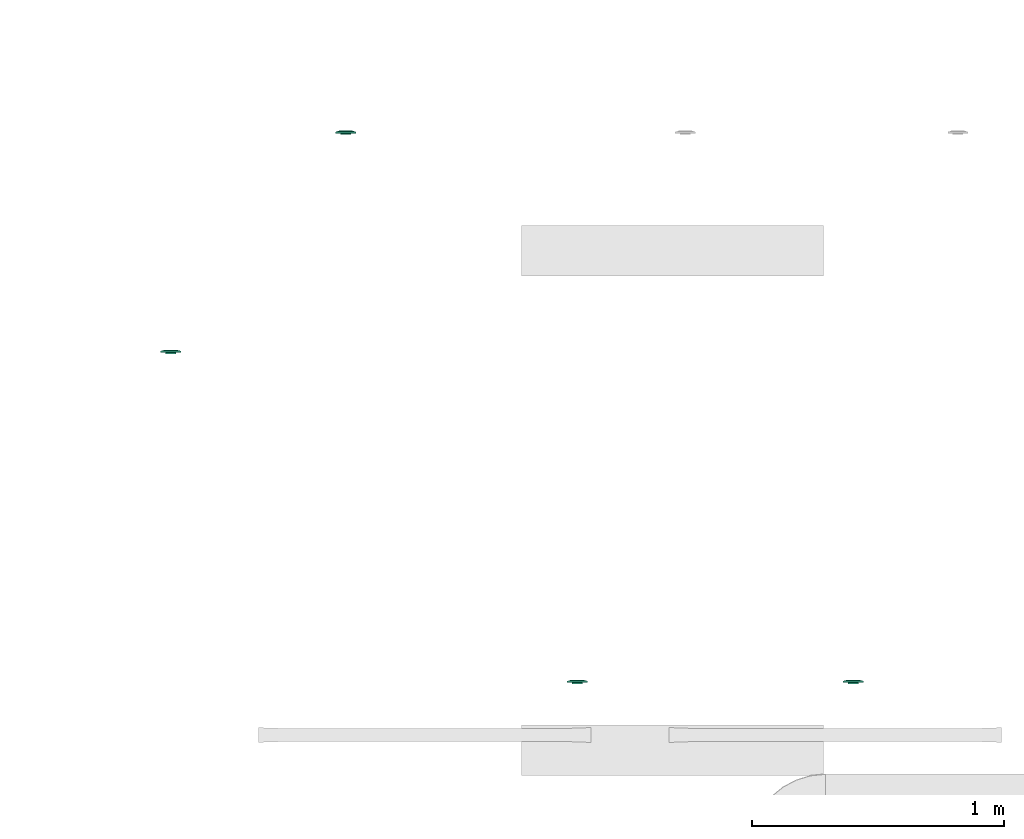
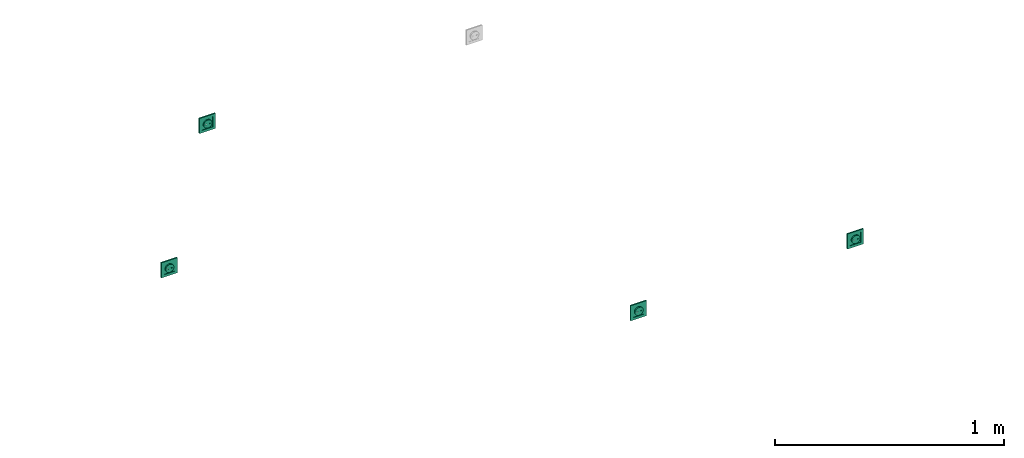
# One storey, part 51 of 153: 4 flow terminals.
"""IFC2X3 building model written with IfcOpenShell, lengths in metres."""

from ifc_helpers import new_model, entity, si_unit, converted_unit, derived_unit, direction, frame, origin, place, context, subcontext, project, spatial, face_set, surface_model, source, transform, mapped, type_object, type_shapes, element, save


model = new_model("IFC2X3")

# Units and contexts
model_context = context("Model", 3, precision=1e-05, world=origin(), true_north=direction((6.12303176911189e-17, 1.0)))
body_context = subcontext(model_context, "Body", "Model", "MODEL_VIEW")
ifc_project = project(units=[si_unit("LENGTHUNIT", "METRE"), si_unit("AREAUNIT", "SQUARE_METRE"), si_unit("VOLUMEUNIT", "CUBIC_METRE"), converted_unit("PLANEANGLEUNIT", "DEGREE", entity("IfcRatioMeasure", 0.0174532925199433), si_unit("PLANEANGLEUNIT", "RADIAN"), dimensions=[0, 0, 0, 0, 0, 0, 0]), si_unit("MASSUNIT", "GRAM", prefix="KILO"), derived_unit("MASSDENSITYUNIT", [(si_unit("MASSUNIT", "GRAM", prefix="KILO"), 1), (si_unit("LENGTHUNIT", "METRE"), -3)]), si_unit("TIMEUNIT", "SECOND"), si_unit("FREQUENCYUNIT", "HERTZ"), si_unit("THERMODYNAMICTEMPERATUREUNIT", "DEGREE_CELSIUS"), derived_unit("THERMALTRANSMITTANCEUNIT", [(si_unit("MASSUNIT", "GRAM", prefix="KILO"), 1), (si_unit("THERMODYNAMICTEMPERATUREUNIT", "KELVIN"), -1), (si_unit("TIMEUNIT", "SECOND"), -3)]), derived_unit("VOLUMETRICFLOWRATEUNIT", [(si_unit("LENGTHUNIT", "METRE"), 3), (si_unit("TIMEUNIT", "SECOND"), -1)]), si_unit("ELECTRICCURRENTUNIT", "AMPERE"), si_unit("ELECTRICVOLTAGEUNIT", "VOLT"), si_unit("POWERUNIT", "WATT"), si_unit("FORCEUNIT", "NEWTON"), si_unit("ILLUMINANCEUNIT", "LUX"), si_unit("LUMINOUSFLUXUNIT", "LUMEN"), si_unit("LUMINOUSINTENSITYUNIT", "CANDELA"), derived_unit("USERDEFINED", [(si_unit("MASSUNIT", "GRAM", prefix="KILO"), -1), (si_unit("LENGTHUNIT", "METRE"), -2), (si_unit("TIMEUNIT", "SECOND"), 3), (si_unit("LUMINOUSFLUXUNIT", "LUMEN"), 1)]), derived_unit("LINEARVELOCITYUNIT", [(si_unit("LENGTHUNIT", "METRE"), 1), (si_unit("TIMEUNIT", "SECOND"), -1)]), si_unit("PRESSUREUNIT", "PASCAL"), derived_unit("USERDEFINED", [(si_unit("LENGTHUNIT", "METRE"), -2), (si_unit("MASSUNIT", "GRAM", prefix="KILO"), 1), (si_unit("TIMEUNIT", "SECOND"), -2)])], contexts=[model_context])

# Site, building, storey
site_placement = place(None, origin())
site = spatial("IfcSite", under=ifc_project, at=site_placement, Name="Default", CompositionType="ELEMENT")
building_placement = place(site_placement, origin())
building = spatial("IfcBuilding", under=site, at=building_placement, CompositionType="ELEMENT")
storey_placement = place(building_placement, frame((0.0, 0.0, -4.62)))
storey = spatial("IfcBuildingStorey", under=building, at=storey_placement, Name="S02", CompositionType="ELEMENT", Elevation=-4.62)

# Flow terminals
light_fixture_type = type_object("IfcLightFixtureType", Name="Attente", PredefinedType="NOTDEFINED")
shared_shape = source(origin(), body_context, "Body", "SurfaceModel", [
    surface_model("IfcFaceBasedSurfaceModel", [(0.00225000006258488, 0.00949633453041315, 0.0127499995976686), (0.0, 0.00949633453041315, 0.0104999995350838), (0.0, 0.0101656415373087, 0.0115376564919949), (0.0, 0.0101656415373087, 0.0139623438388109), (0.0, 0.00984531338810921, 0.0144589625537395), (0.0, 0.0102778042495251, 0.0121178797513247), (0.0, 0.0102778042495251, 0.0133821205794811), (0.0, 0.010399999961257, 0.0127499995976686), (0.0, 0.00949633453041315, 0.0149999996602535), (-0.00225000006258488, 0.00949633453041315, 0.0127499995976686), (0.0, 0.00984531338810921, 0.0110410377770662), (0.0, 0.00949633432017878, 0.0127499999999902), (-0.0022499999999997, 0.0094963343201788, 0.0127499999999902), (-0.00217333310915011, 0.00949633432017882, 0.0121676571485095), (-0.0019485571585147, 0.00949633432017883, 0.0116249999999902), (-0.00159099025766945, 0.00949633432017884, 0.0111590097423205), (-0.00112499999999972, 0.00949633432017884, 0.0108014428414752), (-0.000582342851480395, 0.00949633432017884, 0.0105766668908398), (0.0, 0.00949633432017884, 0.0104999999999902), (0.000582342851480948, 0.00949633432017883, 0.0105766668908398), (0.00112500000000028, 0.00949633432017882, 0.0108014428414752), (0.00159099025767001, 0.00949633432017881, 0.0111590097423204), (0.00194855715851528, 0.00949633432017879, 0.0116249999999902), (0.0021733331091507, 0.00949633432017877, 0.0121676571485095), (0.0022500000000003, 0.00949633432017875, 0.0127499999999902), (0.00217333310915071, 0.00949633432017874, 0.0133323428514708), (0.0019485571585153, 0.00949633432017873, 0.0138749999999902), (0.00159099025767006, 0.00949633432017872, 0.0143409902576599), (0.00112500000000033, 0.00949633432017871, 0.0146985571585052), (0.000582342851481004, 0.00949633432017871, 0.0149233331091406), (0.0, 0.00949633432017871, 0.0149999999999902), (-0.000582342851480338, 0.00949633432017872, 0.0149233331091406), (-0.00112499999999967, 0.00949633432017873, 0.0146985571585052), (-0.00159099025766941, 0.00949633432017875, 0.0143409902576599), (-0.00194855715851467, 0.00949633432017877, 0.0138749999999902), (-0.00217333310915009, 0.00949633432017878, 0.0133323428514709), (-0.00224999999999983, -0.00360000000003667, 0.0127499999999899), (-0.00217333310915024, -0.00360000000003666, 0.0121676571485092), (-0.00194855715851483, -0.00360000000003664, 0.0116249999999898), (-0.00159099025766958, -0.00360000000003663, 0.0111590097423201), (-0.00112499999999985, -0.00360000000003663, 0.0108014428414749), (-0.000582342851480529, -0.00360000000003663, 0.0105766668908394), (0.0, -0.00360000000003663, 0.0104999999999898), (0.000582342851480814, -0.00360000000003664, 0.0105766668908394), (0.00112500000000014, -0.00360000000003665, 0.0108014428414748), (0.00159099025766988, -0.00360000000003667, 0.0111590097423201), (0.00194855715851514, -0.00360000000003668, 0.0116249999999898), (0.00217333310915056, -0.0036000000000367, 0.0121676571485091), (0.00225000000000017, -0.00360000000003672, 0.0127499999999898), (0.00217333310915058, -0.00360000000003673, 0.0133323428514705), (0.00194855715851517, -0.00360000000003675, 0.0138749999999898), (0.00159099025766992, -0.00360000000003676, 0.0143409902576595), (0.00112500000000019, -0.00360000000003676, 0.0146985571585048), (0.00058234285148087, -0.00360000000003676, 0.0149233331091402), (0.0, -0.00360000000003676, 0.0149999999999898), (-0.000582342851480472, -0.00360000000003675, 0.0149233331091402), (-0.0011249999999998, -0.00360000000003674, 0.0146985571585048), (-0.00159099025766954, -0.00360000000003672, 0.0143409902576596), (-0.0019485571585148, -0.00360000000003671, 0.0138749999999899), (-0.00217333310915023, -0.00360000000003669, 0.0133323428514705), (-0.0270000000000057, 0.0113999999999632, 0.0269999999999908), (0.0269999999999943, 0.0113999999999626, 0.0269999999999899), (0.0269999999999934, 0.0113999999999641, -0.0270000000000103), (-0.0270000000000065, 0.0113999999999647, -0.0270000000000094), (0.0199999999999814, 0.0113999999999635, 0.0), (0.0193185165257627, 0.0113999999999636, -0.00517638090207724), (0.0173205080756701, 0.0113999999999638, -0.0100000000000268), (0.0141421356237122, 0.0113999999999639, -0.0141421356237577), (0.00999999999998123, 0.011399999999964, -0.0173205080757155), (0.00517638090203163, 0.0113999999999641, -0.019318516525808), (0.0, 0.0113999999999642, -0.0200000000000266), (-0.00517638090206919, 0.0113999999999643, -0.0193185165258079), (-0.0100000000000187, 0.0113999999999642, -0.0173205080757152), (-0.0141421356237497, 0.0113999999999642, -0.0141421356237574), (-0.0173205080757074, 0.0113999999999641, -0.0100000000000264), (-0.0193185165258, 0.011399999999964, -0.0051763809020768), (-0.0200000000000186, 0.0113999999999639, 0.0), (-0.0193185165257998, 0.0113999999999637, 0.00517638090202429), (-0.0173205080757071, 0.0113999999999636, 0.00999999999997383), (-0.0141421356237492, 0.0113999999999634, 0.0141421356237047), (-0.0100000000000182, 0.0113999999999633, 0.0173205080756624), (-0.00517638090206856, 0.0113999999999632, 0.0193185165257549), (0.0, 0.0113999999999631, 0.0199999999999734), (0.00517638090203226, 0.0113999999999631, 0.0193185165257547), (0.0099999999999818, 0.0113999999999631, 0.017320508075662), (0.0141421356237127, 0.0113999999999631, 0.0141421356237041), (0.0173205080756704, 0.0113999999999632, 0.00999999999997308), (0.0193185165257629, 0.0113999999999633, 0.00517638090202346), (-0.0270000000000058, 0.00199999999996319, 0.0269999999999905), (-0.0270000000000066, 0.00199999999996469, -0.0270000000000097), (0.0269999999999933, 0.00199999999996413, -0.0270000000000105), (0.0269999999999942, 0.00199999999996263, 0.0269999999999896), (-0.0210000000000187, 0.00199999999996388, 0.0), (-0.0202844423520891, 0.00199999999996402, -0.00543519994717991), (-0.0181865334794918, 0.00199999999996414, -0.0105000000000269), (-0.0148492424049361, 0.00199999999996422, -0.0148492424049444), (-0.0105000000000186, 0.00199999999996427, -0.0181865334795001), (-0.00543519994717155, 0.00199999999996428, -0.0202844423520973), (0.0, 0.00199999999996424, -0.0210000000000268), (0.00543519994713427, 0.00199999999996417, -0.0202844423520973), (0.0104999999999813, 0.00199999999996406, -0.0181865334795), (0.0148492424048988, 0.00199999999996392, -0.0148492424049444), (0.0181865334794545, 0.00199999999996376, -0.0105000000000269), (0.0202844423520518, 0.0019999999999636, -0.00543519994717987), (0.0209999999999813, 0.00199999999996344, 0.0), (0.0202844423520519, 0.0019999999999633, 0.0054351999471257), (0.0181865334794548, 0.00199999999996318, 0.0104999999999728), (0.0148492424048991, 0.00199999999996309, 0.0148492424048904), (0.0104999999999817, 0.00199999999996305, 0.0181865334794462), (0.00543519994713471, 0.00199999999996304, 0.0202844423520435), (0.0, 0.00199999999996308, 0.0209999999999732), (-0.00543519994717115, 0.00199999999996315, 0.0202844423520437), (-0.0105000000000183, 0.00199999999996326, 0.0181865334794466), (-0.0148492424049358, 0.0019999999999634, 0.014849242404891), (-0.0181865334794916, 0.00199999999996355, 0.0104999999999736), (-0.020284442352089, 0.00199999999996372, 0.00543519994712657), (-0.0200000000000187, -0.00360000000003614, 0.0), (-0.0193185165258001, -0.003600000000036, -0.00517638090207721), (-0.0173205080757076, -0.00360000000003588, -0.0100000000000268), (-0.0141421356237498, -0.0036000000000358, -0.0141421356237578), (-0.0100000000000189, -0.00360000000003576, -0.0173205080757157), (-0.00517638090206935, -0.00360000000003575, -0.0193185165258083), (0.0, -0.00360000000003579, -0.020000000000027), (0.00517638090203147, -0.00360000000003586, -0.0193185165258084), (0.00999999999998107, -0.00360000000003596, -0.0173205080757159), (0.0141421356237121, -0.00360000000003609, -0.0141421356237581), (0.0173205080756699, -0.00360000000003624, -0.0100000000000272), (0.0193185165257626, -0.0036000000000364, -0.00517638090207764), (0.0199999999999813, -0.00360000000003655, 0.0), (0.0193185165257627, -0.00360000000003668, 0.00517638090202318), (0.0173205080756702, -0.0036000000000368, 0.00999999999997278), (0.0141421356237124, -0.00360000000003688, 0.0141421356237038), (0.00999999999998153, -0.00360000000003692, 0.0173205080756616), (0.00517638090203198, -0.00360000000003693, 0.0193185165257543), (0.0, -0.0036000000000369, 0.019999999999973), (-0.00517638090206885, -0.00360000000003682, 0.0193185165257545), (-0.0100000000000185, -0.00360000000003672, 0.0173205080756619), (-0.0141421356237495, -0.00360000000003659, 0.0141421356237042), (-0.0173205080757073, -0.00360000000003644, 0.00999999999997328), (-0.0193185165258, -0.00360000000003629, 0.00517638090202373), (0.0123499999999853, -0.00360000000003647, 0.0), (0.0122562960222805, -0.00360000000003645, -0.000711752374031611), (0.0119815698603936, -0.00360000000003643, -0.00137499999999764), (0.0115445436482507, -0.00360000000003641, -0.00194454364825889), (0.0109749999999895, -0.00360000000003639, -0.00238156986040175), (0.0103117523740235, -0.00360000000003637, -0.00265629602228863), (0.00959999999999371, -0.00360000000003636, -0.00274999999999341), (0.00888824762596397, -0.00360000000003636, -0.00265629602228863), (0.00822499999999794, -0.00360000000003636, -0.00238156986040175), (0.00765545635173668, -0.00360000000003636, -0.00194454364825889), (0.00721843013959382, -0.00360000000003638, -0.00137499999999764), (0.00694370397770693, -0.00360000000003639, -0.000711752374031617), (0.00685000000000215, -0.00360000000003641, 0.0), (0.00694370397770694, -0.00360000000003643, 0.000711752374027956), (0.00721843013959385, -0.00360000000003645, 0.00137499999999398), (0.00765545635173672, -0.00360000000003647, 0.00194454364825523), (0.00822499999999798, -0.00360000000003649, 0.00238156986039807), (0.00888824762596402, -0.00360000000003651, 0.00265629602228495), (0.00959999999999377, -0.00360000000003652, 0.0027499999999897), (0.0103117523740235, -0.00360000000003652, 0.00265629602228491), (0.0109749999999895, -0.00360000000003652, 0.00238156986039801), (0.0115445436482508, -0.00360000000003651, 0.00194454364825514), (0.0119815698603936, -0.0036000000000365, 0.00137499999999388), (0.0122562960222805, -0.00360000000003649, 0.000711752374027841), (-0.00685000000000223, -0.00360000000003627, 0.0), (-0.00694370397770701, -0.00360000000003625, -0.000711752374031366), (-0.0072184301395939, -0.00360000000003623, -0.00137499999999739), (-0.00765545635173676, -0.00360000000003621, -0.00194454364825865), (-0.00822499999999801, -0.00360000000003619, -0.0023815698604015), (-0.00888824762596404, -0.00360000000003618, -0.00265629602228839), (-0.00959999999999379, -0.00360000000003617, -0.00274999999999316), (-0.0103117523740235, -0.00360000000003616, -0.00265629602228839), (-0.0109749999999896, -0.00360000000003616, -0.00238156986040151), (-0.0115445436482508, -0.00360000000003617, -0.00194454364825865), (-0.0119815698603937, -0.00360000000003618, -0.0013749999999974), (-0.0122562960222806, -0.0036000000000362, -0.000711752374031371), (-0.0123499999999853, -0.00360000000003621, 0.0), (-0.0122562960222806, -0.00360000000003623, 0.000711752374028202), (-0.0119815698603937, -0.00360000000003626, 0.00137499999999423), (-0.0115445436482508, -0.00360000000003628, 0.00194454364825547), (-0.0109749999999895, -0.00360000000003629, 0.00238156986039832), (-0.0103117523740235, -0.00360000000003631, 0.00265629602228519), (-0.00959999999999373, -0.00360000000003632, 0.00274999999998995), (-0.00888824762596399, -0.00360000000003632, 0.00265629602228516), (-0.00822499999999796, -0.00360000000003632, 0.00238156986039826), (-0.00765545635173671, -0.00360000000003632, 0.00194454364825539), (-0.00721843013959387, -0.0036000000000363, 0.00137499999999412), (-0.00694370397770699, -0.00360000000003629, 0.000711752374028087), (-0.0210000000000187, -0.00460000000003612, 0.0), (-0.0202844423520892, -0.00460000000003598, -0.00543519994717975), (-0.018186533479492, -0.00460000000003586, -0.0105000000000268), (-0.0148492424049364, -0.00460000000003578, -0.0148492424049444), (-0.0105000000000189, -0.00460000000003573, -0.0181865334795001), (-0.00543519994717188, -0.00460000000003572, -0.0202844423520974), (0.0, -0.00460000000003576, -0.021000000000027), (0.00543519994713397, -0.00460000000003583, -0.0202844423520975), (0.0104999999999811, -0.00460000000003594, -0.0181865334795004), (0.0148492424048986, -0.00460000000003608, -0.0148492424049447), (0.0181865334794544, -0.00460000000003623, -0.0105000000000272), (0.0202844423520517, -0.0046000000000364, -0.0054351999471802), (0.0209999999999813, -0.00460000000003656, 0.0), (0.0202844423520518, -0.0046000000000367, 0.00543519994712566), (0.0181865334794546, -0.00460000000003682, 0.0104999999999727), (0.014849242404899, -0.00460000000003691, 0.0148492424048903), (0.0104999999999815, -0.00460000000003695, 0.0181865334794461), (0.0054351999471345, -0.00460000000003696, 0.0202844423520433), (0.0, -0.00460000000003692, 0.020999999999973), (-0.00543519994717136, -0.00460000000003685, 0.0202844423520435), (-0.0105000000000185, -0.00460000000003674, 0.0181865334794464), (-0.014849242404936, -0.0046000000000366, 0.0148492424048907), (-0.0181865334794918, -0.00460000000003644, 0.0104999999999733), (-0.0202844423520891, -0.00460000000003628, 0.00543519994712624), (0.00685000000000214, -0.00460000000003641, 0.0), (0.00694370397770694, -0.00460000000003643, 0.000711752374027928), (0.00721843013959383, -0.00460000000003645, 0.00137499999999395), (0.0076554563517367, -0.00460000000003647, 0.0019445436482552), (0.00822499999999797, -0.00460000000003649, 0.00238156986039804), (0.00888824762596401, -0.0046000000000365, 0.00265629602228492), (0.00959999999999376, -0.00460000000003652, 0.00274999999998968), (0.0103117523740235, -0.00460000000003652, 0.00265629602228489), (0.0109749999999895, -0.00460000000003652, 0.00238156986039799), (0.0115445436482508, -0.00460000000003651, 0.00194454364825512), (0.0119815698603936, -0.0046000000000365, 0.00137499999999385), (0.0122562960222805, -0.00460000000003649, 0.000711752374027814), (0.0123499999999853, -0.00460000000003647, 0.0), (0.0122562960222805, -0.00460000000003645, -0.00071175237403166), (0.0119815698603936, -0.00460000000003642, -0.00137499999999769), (0.0115445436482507, -0.0046000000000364, -0.00194454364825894), (0.0109749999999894, -0.00460000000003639, -0.00238156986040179), (0.0103117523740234, -0.00460000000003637, -0.00265629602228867), (0.00959999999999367, -0.00460000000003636, -0.00274999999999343), (0.00888824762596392, -0.00460000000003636, -0.00265629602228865), (0.00822499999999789, -0.00460000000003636, -0.00238156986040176), (0.00765545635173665, -0.00460000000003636, -0.00194454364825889), (0.00721843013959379, -0.00460000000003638, -0.00137499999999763), (0.00694370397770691, -0.00460000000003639, -0.0007117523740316), (-0.0123499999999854, -0.00460000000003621, 0.0), (-0.0122562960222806, -0.00460000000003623, 0.000711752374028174), (-0.0119815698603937, -0.00460000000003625, 0.0013749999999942), (-0.0115445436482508, -0.00460000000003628, 0.00194454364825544), (-0.0109749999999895, -0.00460000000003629, 0.00238156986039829), (-0.0103117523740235, -0.00460000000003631, 0.00265629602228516), (-0.00959999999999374, -0.00460000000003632, 0.00274999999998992), (-0.008888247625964, -0.00460000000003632, 0.00265629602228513), (-0.00822499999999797, -0.00460000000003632, 0.00238156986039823), (-0.00765545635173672, -0.00460000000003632, 0.00194454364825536), (-0.00721843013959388, -0.0046000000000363, 0.0013749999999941), (-0.006943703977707, -0.00460000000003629, 0.000711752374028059), (-0.00685000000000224, -0.00460000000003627, 0.0), (-0.00694370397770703, -0.00460000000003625, -0.000711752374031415), (-0.00721843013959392, -0.00460000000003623, -0.00137499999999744), (-0.00765545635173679, -0.00460000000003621, -0.00194454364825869), (-0.00822499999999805, -0.00460000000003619, -0.00238156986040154), (-0.00888824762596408, -0.00460000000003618, -0.00265629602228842), (-0.00959999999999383, -0.00460000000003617, -0.00274999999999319), (-0.0103117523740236, -0.00460000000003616, -0.00265629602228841), (-0.0109749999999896, -0.00460000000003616, -0.00238156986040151), (-0.0115445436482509, -0.00460000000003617, -0.00194454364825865), (-0.0119815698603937, -0.00460000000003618, -0.00137499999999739), (-0.0122562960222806, -0.00460000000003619, -0.000711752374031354), (-0.0403499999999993, 0.00659999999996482, 0.0403499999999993), (-0.0403500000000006, 0.00659999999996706, -0.0403500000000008), (0.0403499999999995, 0.00659999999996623, -0.0403500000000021), (0.0403500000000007, 0.00659999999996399, 0.040349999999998), (-0.0269999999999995, 0.00659999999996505, 0.026999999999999), (0.0270000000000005, 0.0065999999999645, 0.0269999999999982), (0.0269999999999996, 0.006599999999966, -0.0270000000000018), (-0.0270000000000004, 0.00659999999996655, -0.027000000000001), (-0.0269999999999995, 0.0103999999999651, 0.0269999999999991), (0.0270000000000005, 0.0103999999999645, 0.0269999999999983), (0.0269999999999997, 0.010399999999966, -0.0270000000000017), (-0.0270000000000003, 0.0103999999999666, -0.0270000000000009), (-0.0403499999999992, 0.00659999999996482, 0.0403499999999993), (-0.0403500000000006, 0.00659999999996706, -0.0403500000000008), (0.0403499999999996, 0.00659999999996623, -0.0403500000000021), (0.0403500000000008, 0.00659999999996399, 0.040349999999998), (0.0270000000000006, 0.0065999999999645, 0.0269999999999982), (0.0269999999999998, 0.006599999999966, -0.0270000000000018), (-0.0270000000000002, 0.00659999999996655, -0.027000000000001), (-0.0269999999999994, 0.00659999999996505, 0.026999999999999), (-0.0403499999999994, 0.0, 0.0403499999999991), (-0.0403500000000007, 0.0, -0.040350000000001), (0.0403499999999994, 0.0, -0.0403500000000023), (0.0403500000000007, 0.0, 0.0403499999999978), (-0.0269999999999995, 0.0, 0.0269999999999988), (0.0270000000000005, 0.0, 0.026999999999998), (0.0269999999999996, 0.0, -0.027000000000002), (-0.0270000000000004, 0.0, -0.0270000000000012)], [face_set([[[0, 1, 2]], [[3, 4, 2, 5]], [[6, 3, 5, 7]], [[2, 4, 0]], [[4, 8, 0]], [[3, 9, 8]], [[1, 9, 10]], [[2, 3, 6, 7]], [[3, 10, 9]], [[2, 10, 3]], [[11, 1, 0, 8]], [[11, 8, 9, 1]]]), face_set([[[12, 13, 14, 15, 16, 17, 18, 19, 20, 21, 22, 23, 24, 25, 26, 27, 28, 29, 30, 31, 32, 33, 34, 35]], [[36, 37, 38, 39, 40, 41, 42, 43, 44, 45, 46, 47, 48, 49, 50, 51, 52, 53, 54, 55, 56, 57, 58, 59]], [[48, 47, 23, 24]], [[47, 46, 22, 23]], [[45, 44, 20, 21]], [[46, 45, 21, 22]], [[44, 43, 19, 20]], [[18, 19, 43, 42]], [[42, 41, 17, 18]], [[41, 40, 16, 17]], [[39, 38, 14, 15]], [[40, 39, 15, 16]], [[38, 37, 13, 14]], [[12, 13, 37, 36]], [[36, 59, 35, 12]], [[59, 58, 34, 35]], [[57, 56, 32, 33]], [[58, 57, 33, 34]], [[56, 55, 31, 32]], [[30, 31, 55, 54]], [[54, 53, 29, 30]], [[53, 52, 28, 29]], [[51, 50, 26, 27]], [[52, 51, 27, 28]], [[50, 49, 25, 26]], [[24, 25, 49, 48]]]), face_set([[[60, 61, 62, 63], [64, 65, 66, 67, 68, 69, 70, 71, 72, 73, 74, 75, 76, 77, 78, 79, 80, 81, 82, 83, 84, 85, 86, 87]], [[88, 89, 90, 91], [92, 93, 94, 95, 96, 97, 98, 99, 100, 101, 102, 103, 104, 105, 106, 107, 108, 109, 110, 111, 112, 113, 114, 115]], [[61, 60, 88, 91]], [[62, 61, 91, 90]], [[63, 62, 90, 89]], [[60, 63, 89, 88]], [[116, 117, 118, 119, 120, 121, 122, 123, 124, 125, 126, 127, 128, 129, 130, 131, 132, 133, 134, 135, 136, 137, 138, 139], [140, 141, 142, 143, 144, 145, 146, 147, 148, 149, 150, 151, 152, 153, 154, 155, 156, 157, 158, 159, 160, 161, 162, 163], [164, 165, 166, 167, 168, 169, 170, 171, 172, 173, 174, 175, 176, 177, 178, 179, 180, 181, 182, 183, 184, 185, 186, 187]], [[64, 128, 127, 65]], [[65, 127, 126, 66]], [[67, 125, 124, 68]], [[66, 126, 125, 67]], [[68, 124, 123, 69]], [[122, 70, 69, 123]], [[70, 122, 121, 71]], [[71, 121, 120, 72]], [[73, 119, 118, 74]], [[72, 120, 119, 73]], [[74, 118, 117, 75]], [[116, 76, 75, 117]], [[76, 116, 139, 77]], [[77, 139, 138, 78]], [[79, 137, 136, 80]], [[78, 138, 137, 79]], [[80, 136, 135, 81]], [[134, 82, 81, 135]], [[82, 134, 133, 83]], [[83, 133, 132, 84]], [[84, 132, 131, 85]], [[85, 131, 130, 86]], [[130, 129, 87, 86]], [[64, 87, 129, 128]], [[188, 189, 190, 191, 192, 193, 194, 195, 196, 197, 198, 199, 200, 201, 202, 203, 204, 205, 206, 207, 208, 209, 210, 211], [212, 213, 214, 215, 216, 217, 218, 219, 220, 221, 222, 223, 224, 225, 226, 227, 228, 229, 230, 231, 232, 233, 234, 235], [236, 237, 238, 239, 240, 241, 242, 243, 244, 245, 246, 247, 248, 249, 250, 251, 252, 253, 254, 255, 256, 257, 258, 259]], [[200, 199, 103, 104]], [[199, 198, 102, 103]], [[197, 196, 100, 101]], [[198, 197, 101, 102]], [[196, 195, 99, 100]], [[98, 99, 195, 194]], [[194, 193, 97, 98]], [[193, 192, 96, 97]], [[191, 190, 94, 95]], [[192, 191, 95, 96]], [[190, 189, 93, 94]], [[92, 93, 189, 188]], [[188, 211, 115, 92]], [[211, 210, 114, 115]], [[209, 208, 112, 113]], [[210, 209, 113, 114]], [[208, 207, 111, 112]], [[110, 111, 207, 206]], [[206, 205, 109, 110]], [[205, 204, 108, 109]], [[203, 202, 106, 107]], [[204, 203, 107, 108]], [[202, 201, 105, 106]], [[104, 105, 201, 200]], [[141, 225, 226, 142]], [[140, 224, 225, 141]], [[144, 228, 229, 145]], [[143, 227, 228, 144]], [[142, 226, 227, 143]], [[230, 146, 145, 229]], [[149, 233, 232, 148]], [[148, 232, 231, 147]], [[152, 212, 235, 151]], [[151, 235, 234, 150]], [[150, 234, 233, 149]], [[146, 230, 231, 147]], [[154, 214, 213, 153]], [[153, 213, 212, 152]], [[157, 217, 216, 156]], [[156, 216, 215, 155]], [[155, 215, 214, 154]], [[218, 158, 157, 217]], [[160, 220, 221, 161]], [[159, 219, 220, 160]], [[163, 223, 224, 140]], [[162, 222, 223, 163]], [[161, 221, 222, 162]], [[158, 218, 219, 159]], [[166, 250, 249, 165]], [[165, 249, 248, 164]], [[169, 253, 252, 168]], [[168, 252, 251, 167]], [[167, 251, 250, 166]], [[254, 170, 169, 253]], [[172, 256, 257, 173]], [[171, 255, 256, 172]], [[175, 259, 236, 176]], [[174, 258, 259, 175]], [[173, 257, 258, 174]], [[170, 254, 255, 171]], [[177, 237, 238, 178]], [[176, 236, 237, 177]], [[180, 240, 241, 181]], [[179, 239, 240, 180]], [[178, 238, 239, 179]], [[242, 182, 181, 241]], [[185, 245, 244, 184]], [[184, 244, 243, 183]], [[164, 248, 247, 187]], [[187, 247, 246, 186]], [[186, 246, 245, 185]], [[182, 242, 243, 183]]]), face_set([[[260, 261, 262, 263], [264, 265, 266, 267]], [[260, 268, 269, 263]], [[263, 269, 270, 262]], [[262, 270, 271, 261]], [[261, 271, 268, 260]], [[264, 265, 269, 268]], [[265, 266, 270, 269]], [[266, 267, 271, 270]], [[268, 271, 267, 264]]]), face_set([[[272, 273, 274, 275], [276, 277, 278, 279]], [[280, 281, 282, 283], [284, 285, 286, 287]], [[275, 272, 280, 283]], [[274, 275, 283, 282]], [[273, 274, 282, 281]], [[272, 273, 281, 280]], [[284, 285, 276, 279]], [[285, 286, 277, 276]], [[286, 287, 278, 277]], [[279, 278, 287, 284]]])]),
])
type_shapes(light_fixture_type, [shared_shape])
for number, where, name in (
    (1, (34.4847353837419, -185.399100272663, 0.0), "INT_Attente électrique:Attente"),
    (2, (33.789985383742, -186.269041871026, 0.0), "INT_Attente électrique:Attente"),
    (3, (36.499243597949, -187.579150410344, 0.0), "INT_Attente électrique:Attente"),
    (4, (35.404243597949, -187.579150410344, 0.0), "INT_Attente électrique:Attente"),
):
    element("IfcFlowTerminal", number, at=place(storey_placement, frame(where)), inside=storey, type_object=light_fixture_type, Name=name, ObjectType="INT_Attente électrique:Attente", context=body_context, shape_type="MappedRepresentation", body=[
        mapped(shared_shape, transform((0.0, 0.0, 0.0), scale=1.0)),
    ])

save(model, "model.ifc")
